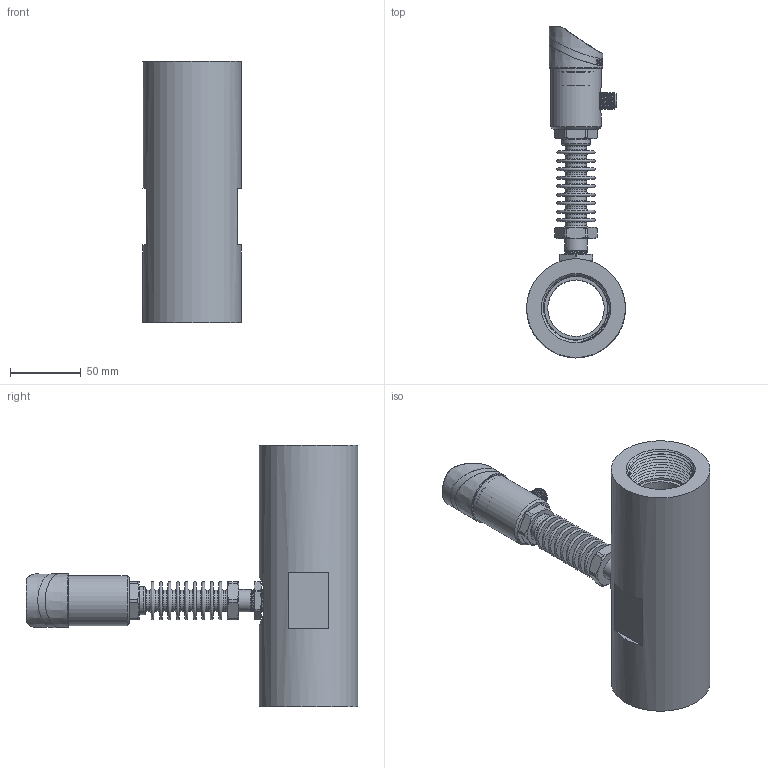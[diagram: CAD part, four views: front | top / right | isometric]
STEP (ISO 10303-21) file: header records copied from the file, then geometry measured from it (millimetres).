
FILE_DESCRIPTION( (''), '2;1');
FILE_NAME( 'QTKE_DN40_female-thread_high-temp.step', '2024-10-15T13:42:37+08:00', (''), (''), '', '', '');
FILE_SCHEMA (('AUTOMOTIVE_DESIGN { 1 0 10303 214 3 1 1 1 }'));
Length unit declared in the file: millimetre
Products named in the file (1): QTKE DN40_female-thread_high-temp
Bounding box: 70 x 235 x 185 mm (x, y, z)
Volume: 490409.4 mm3; surface area: 122006.8 mm2
Topology: 5 solids, 5 shells, 1113 faces, 2868 edges, 1864 vertices
Faces by surface type: plane 516, cylinder 171, extrusion 160, cone 108, bspline 77, torus 60, sphere 21
Full cylindrical faces by diameter (mm): 1.689 x1, 2 x1, 2.7 x6, 3.5 x5, 12 x1, 13 x1, 15 x11, 15.9 x1, 20 x1, 23 x3, 26 x5, 31.7 x1, 32 x1, 34 x1, 34.2 x1, 35.5 x2, 40 x1, 45 x1, 70 x1
Entity records: 49659 total; most frequent: CARTESIAN_POINT 19973, ORIENTED_EDGE 5344, DIRECTION 4579, EDGE_CURVE 2672, VERTEX_POINT 1803, AXIS2_PLACEMENT_3D 1553, VECTOR 1473, EDGE_LOOP 1355
